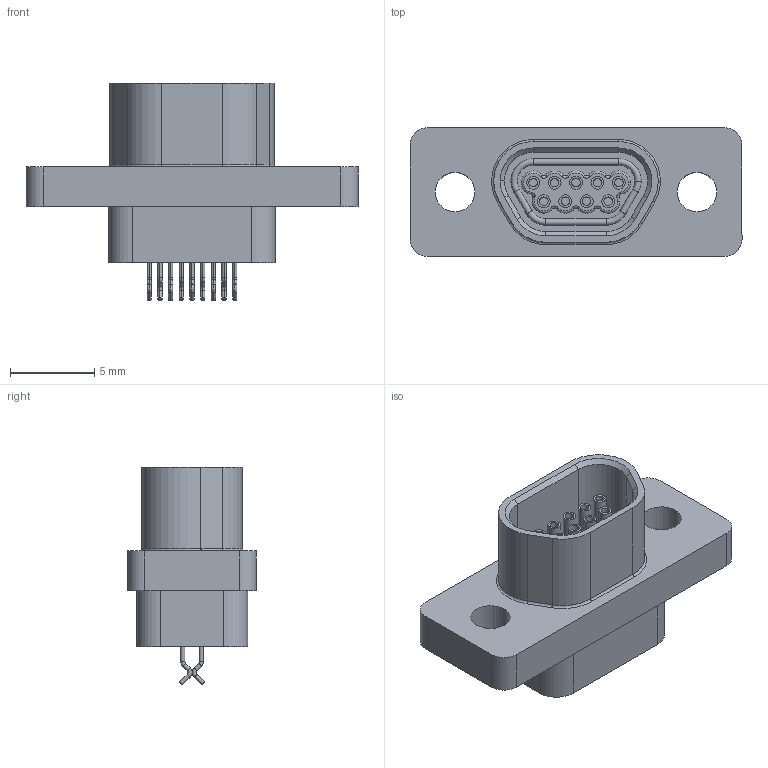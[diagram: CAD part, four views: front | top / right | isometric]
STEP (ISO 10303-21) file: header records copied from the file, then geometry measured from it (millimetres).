
FILE_DESCRIPTION (( 'STEP AP214' ), '1' );
FILE_NAME ('A99245-009 REV A.STEP', '2016-02-19T16:57:31', ( '' ), ( '' ), 'SwSTEP 2.0', 'SolidWorks 2015', '' );
FILE_SCHEMA (( 'AUTOMOTIVE_DESIGN' ));
Length unit declared in the file: inch
Products named in the file (1): A99245-009 REV A
Bounding box: 19.68 x 7.63 x 12.89 mm (x, y, z)
Volume: 641.8 mm3; surface area: 918.1 mm2
Topology: 1 solids, 1 shells, 442 faces, 1060 edges, 665 vertices
Faces by surface type: plane 170, cylinder 152, torus 67, bspline 48, cone 5
Entity records: 15326 total; most frequent: CARTESIAN_POINT 5000, DIRECTION 2152, ORIENTED_EDGE 2120, EDGE_CURVE 1060, AXIS2_PLACEMENT_3D 793, VERTEX_POINT 665, LINE 566, VECTOR 566
